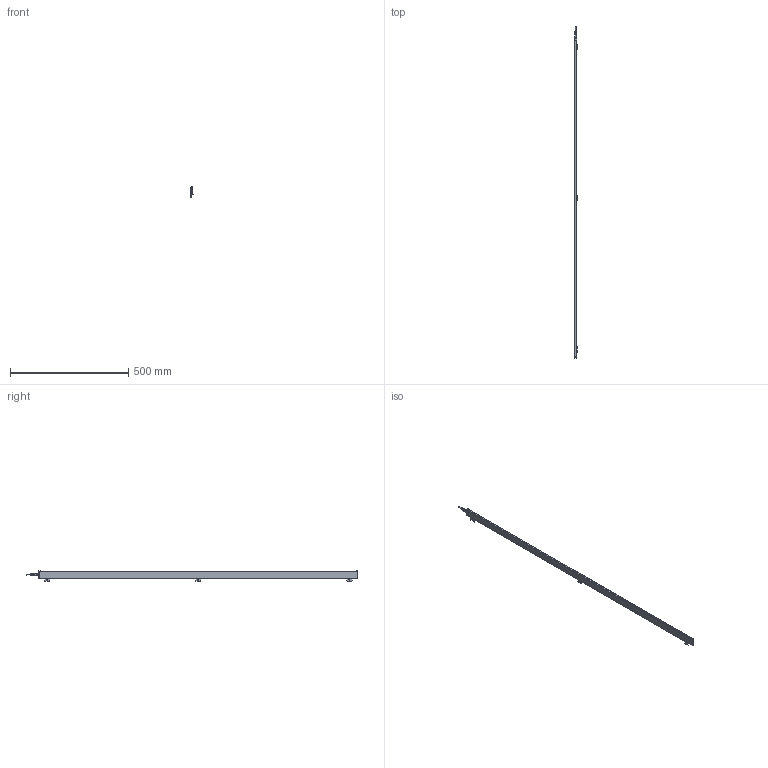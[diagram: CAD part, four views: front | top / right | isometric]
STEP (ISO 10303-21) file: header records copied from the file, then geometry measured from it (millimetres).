
FILE_DESCRIPTION (( 'STEP AP214' ), '1' );
FILE_NAME ('ILG-N-K2-1350mm.STEP', '2017-07-10T13:56:25', ( '' ), ( '' ), 'SwSTEP 2.0', 'SolidWorks 2016', '' );
FILE_SCHEMA (( 'AUTOMOTIVE_DESIGN' ));
Length unit declared in the file: millimetre
Products named in the file (1): ILG-N-K2-1350mm
Bounding box: 10.23 x 1403.5 x 42.41 mm (x, y, z)
Surface area: 229133.1 mm2 (no closed solid volume)
Topology: 0 solids, 16 shells, 781 faces, 2020 edges, 1269 vertices
Faces by surface type: plane 346, cylinder 297, cone 90, bspline 32, torus 16
Entity records: 34483 total; most frequent: CARTESIAN_POINT 6956, ORIENTED_EDGE 3993, DIRECTION 3858, EDGE_CURVE 2004, AXIS2_PLACEMENT_3D 1419, VERTEX_POINT 1269, VECTOR 1020, LINE 1020
